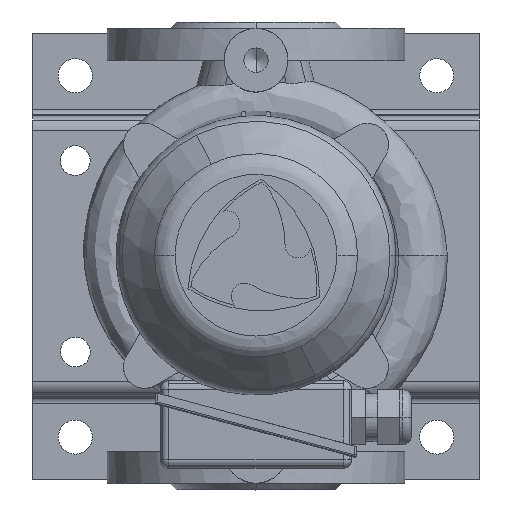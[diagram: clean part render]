
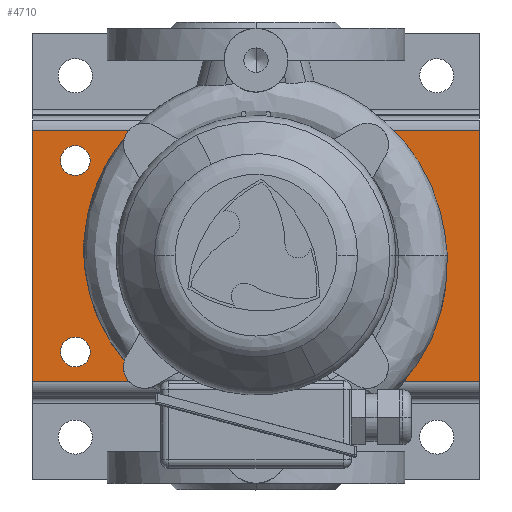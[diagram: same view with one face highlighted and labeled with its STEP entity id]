
A CAD part, top view. The second image highlights one B-rep face of the part: STEP entity #4710.
In plain terms, the highlighted planar face has unit normal (0, 0, 1) as drawn and (0, 1, 0) by its records, which use the part's own axes.
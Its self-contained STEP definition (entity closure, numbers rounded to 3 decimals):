
#4710=ADVANCED_FACE('',(#9259,#9260,#9261,#9262,#9263),#9264,.T.);
#4762=EDGE_CURVE('',#9352,#9353,#9354,.T.);
#4770=EDGE_CURVE('',#9368,#9369,#9370,.T.);
#4778=EDGE_CURVE('',#9384,#9385,#9386,.T.);
#4786=EDGE_CURVE('',#9400,#9401,#9402,.T.);
#4830=EDGE_CURVE('',#9473,#9476,#9477,.T.);
#4854=EDGE_CURVE('',#9508,#9511,#9512,.T.);
#4874=EDGE_CURVE('',#9511,#9473,#9536,.T.);
#4876=EDGE_CURVE('',#9508,#9476,#9538,.T.);
#4878=EDGE_CURVE('',#9401,#9400,#9540,.T.);
#4880=EDGE_CURVE('',#9385,#9384,#9542,.T.);
#4882=EDGE_CURVE('',#9369,#9368,#9544,.T.);
#4884=EDGE_CURVE('',#9353,#9352,#9546,.T.);
#9259=FACE_OUTER_BOUND('',#18656,.T.);
#9260=FACE_BOUND('',#18657,.T.);
#9261=FACE_BOUND('',#18658,.T.);
#9262=FACE_BOUND('',#18659,.T.);
#9263=FACE_BOUND('',#18660,.T.);
#9264=PLANE('',#18661);
#9352=VERTEX_POINT('',#18751);
#9353=VERTEX_POINT('',#18752);
#9354=CIRCLE('',#18753,5.5);
#9368=VERTEX_POINT('',#18771);
#9369=VERTEX_POINT('',#18772);
#9370=CIRCLE('',#18773,7.);
#9384=VERTEX_POINT('',#18791);
#9385=VERTEX_POINT('',#18792);
#9386=CIRCLE('',#18793,7.0);
#9400=VERTEX_POINT('',#18811);
#9401=VERTEX_POINT('',#18812);
#9402=CIRCLE('',#18813,7.0);
#9473=VERTEX_POINT('',#18911);
#9476=VERTEX_POINT('',#18915);
#9477=LINE('',#18916,#18917);
#9508=VERTEX_POINT('',#18962);
#9511=VERTEX_POINT('',#18966);
#9512=LINE('',#18967,#18968);
#9536=LINE('',#19006,#19007);
#9538=LINE('',#19010,#19011);
#9540=CIRCLE('',#19014,7.0);
#9542=CIRCLE('',#19017,7.0);
#9544=CIRCLE('',#19020,7.);
#9546=CIRCLE('',#19023,5.5);
#18656=EDGE_LOOP('',(#26184,#26185,#26186,#26187));
#18657=EDGE_LOOP('',(#26188,#26189));
#18658=EDGE_LOOP('',(#26190,#26191));
#18659=EDGE_LOOP('',(#26192,#26193));
#18660=EDGE_LOOP('',(#26194,#26195));
#18661=AXIS2_PLACEMENT_3D('',#26196,#26197,#26198);
#18751=CARTESIAN_POINT('',(-3.111,43.0,100.464));
#18752=CARTESIAN_POINT('',(3.111,43.0,109.536));
#18753=AXIS2_PLACEMENT_3D('',#26462,#26463,#26464);
#18771=CARTESIAN_POINT('',(-38.825,43.0,23.297));
#18772=CARTESIAN_POINT('',(-51.175,43.0,16.703));
#18773=AXIS2_PLACEMENT_3D('',#26474,#26475,#26476);
#18791=CARTESIAN_POINT('',(0.0,43.0,148.0));
#18792=CARTESIAN_POINT('',(0.,43.0,162.0));
#18793=AXIS2_PLACEMENT_3D('',#26486,#26487,#26488);
#18811=CARTESIAN_POINT('',(45.0,43.0,27.0));
#18812=CARTESIAN_POINT('',(45.0,43.0,13.0));
#18813=AXIS2_PLACEMENT_3D('',#26498,#26499,#26500);
#18911=CARTESIAN_POINT('',(59.0,43.0,0.0));
#18915=CARTESIAN_POINT('',(59.0,43.0,210.0));
#18916=CARTESIAN_POINT('',(59.0,43.0,0.0));
#18917=VECTOR('',#26552,1.0);
#18962=CARTESIAN_POINT('',(-59.0,43.0,210.0));
#18966=CARTESIAN_POINT('',(-59.0,43.0,0.0));
#18967=CARTESIAN_POINT('',(-59.0,43.0,210.0));
#18968=VECTOR('',#26580,1.0);
#19006=CARTESIAN_POINT('',(-59.0,43.0,0.0));
#19007=VECTOR('',#26600,1.0);
#19010=CARTESIAN_POINT('',(-59.0,43.0,210.0));
#19011=VECTOR('',#26601,1.0);
#19014=AXIS2_PLACEMENT_3D('',#26602,#26603,#26604);
#19017=AXIS2_PLACEMENT_3D('',#26605,#26606,#26607);
#19020=AXIS2_PLACEMENT_3D('',#26608,#26609,#26610);
#19023=AXIS2_PLACEMENT_3D('',#26611,#26612,#26613);
#26184=ORIENTED_EDGE('',*,*,#4830,.F.);
#26185=ORIENTED_EDGE('',*,*,#4874,.F.);
#26186=ORIENTED_EDGE('',*,*,#4854,.F.);
#26187=ORIENTED_EDGE('',*,*,#4876,.T.);
#26188=ORIENTED_EDGE('',*,*,#4786,.T.);
#26189=ORIENTED_EDGE('',*,*,#4878,.T.);
#26190=ORIENTED_EDGE('',*,*,#4778,.T.);
#26191=ORIENTED_EDGE('',*,*,#4880,.T.);
#26192=ORIENTED_EDGE('',*,*,#4770,.T.);
#26193=ORIENTED_EDGE('',*,*,#4882,.T.);
#26194=ORIENTED_EDGE('',*,*,#4762,.T.);
#26195=ORIENTED_EDGE('',*,*,#4884,.T.);
#26196=CARTESIAN_POINT('',(-66.0,43.0,0.0));
#26197=DIRECTION('',(0.0,1.0,0.0));
#26198=DIRECTION('',(0.0,0.0,1.0));
#26462=CARTESIAN_POINT('',(0.0,43.0,105.0));
#26463=DIRECTION('',(0.0,-1.0,-0.0));
#26464=DIRECTION('',(-0.566,0.0,-0.825));
#26474=CARTESIAN_POINT('',(-45.0,43.0,20.0));
#26475=DIRECTION('',(0.0,-1.0,0.0));
#26476=DIRECTION('',(0.882,0.0,0.471));
#26486=CARTESIAN_POINT('',(0.0,43.0,155.0));
#26487=DIRECTION('',(0.0,-1.0,0.0));
#26488=DIRECTION('',(0.0,0.0,-1.0));
#26498=CARTESIAN_POINT('',(45.0,43.0,20.0));
#26499=DIRECTION('',(0.0,-1.0,0.0));
#26500=DIRECTION('',(0.0,0.0,1.0));
#26552=DIRECTION('',(0.0,0.0,1.0));
#26580=DIRECTION('',(0.0,0.0,-1.0));
#26600=DIRECTION('',(1.0,0.0,0.0));
#26601=DIRECTION('',(1.0,0.0,0.0));
#26602=CARTESIAN_POINT('',(45.0,43.0,20.0));
#26603=DIRECTION('',(0.0,-1.0,0.0));
#26604=DIRECTION('',(0.0,0.0,1.0));
#26605=CARTESIAN_POINT('',(0.0,43.0,155.0));
#26606=DIRECTION('',(0.0,-1.0,0.0));
#26607=DIRECTION('',(0.0,0.0,-1.0));
#26608=CARTESIAN_POINT('',(-45.0,43.0,20.0));
#26609=DIRECTION('',(0.0,-1.0,0.0));
#26610=DIRECTION('',(0.882,0.0,0.471));
#26611=CARTESIAN_POINT('',(0.0,43.0,105.0));
#26612=DIRECTION('',(0.0,-1.0,-0.0));
#26613=DIRECTION('',(-0.566,0.0,-0.825));
